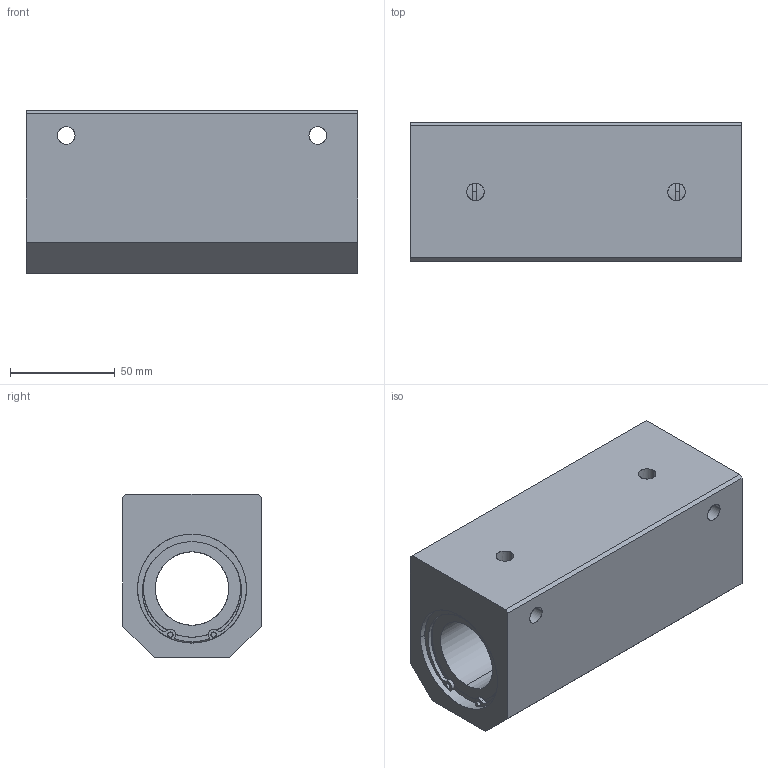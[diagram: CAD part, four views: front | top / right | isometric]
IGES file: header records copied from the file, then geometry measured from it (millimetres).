
Global section: file name: No Iges File Name specified; native system: AutoDesk Inventor R11.0; preprocessor: AutoDesk Inventor Iges Exporter R11.0; author: No Author specified; organization: No Organization specified; date: 20170921.152816; units: millimetre
Bounding box: 158 x 66 x 78 mm (x, y, z)
Surface area: 76582.2 mm2 (no closed solid volume)
Topology: 0 solids, 0 shells, 102 faces, 799 edges, 799 vertices
Faces by surface type: bspline 102
